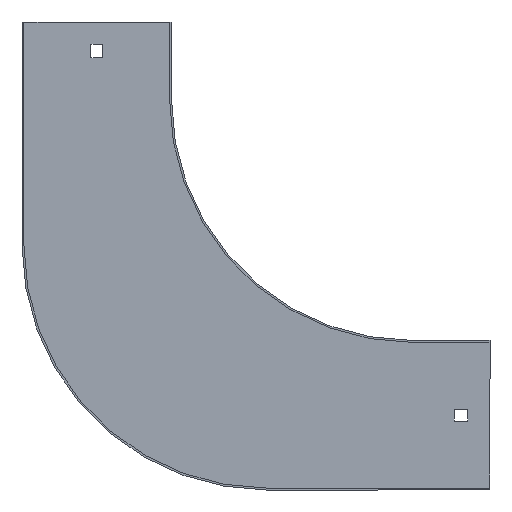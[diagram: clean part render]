
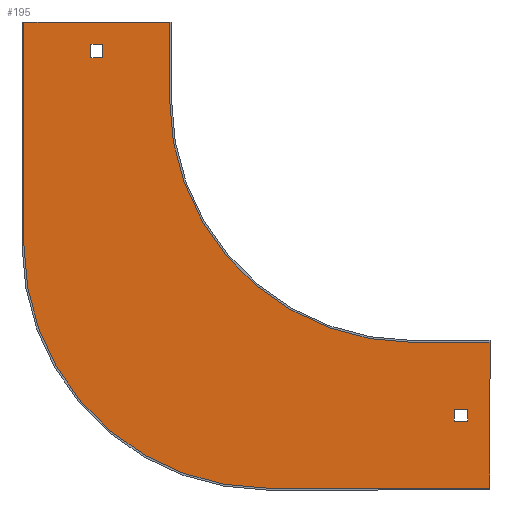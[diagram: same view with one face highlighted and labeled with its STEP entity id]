
A CAD part, front view. The second image highlights one B-rep face of the part: STEP entity #195.
In plain terms, the highlighted planar face has unit normal (0, -1, 0).
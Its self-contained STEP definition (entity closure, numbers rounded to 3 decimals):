
#21 = VECTOR ( 'NONE', #156, 1000. ) ;
#27 = VECTOR ( 'NONE', #313, 1000. ) ;
#29 = EDGE_CURVE ( 'NONE', #651, #288, #544, .T. ) ;
#30 = CARTESIAN_POINT ( 'NONE',  ( 21.5, -1., 0. ) ) ;
#47 = CARTESIAN_POINT ( 'NONE',  ( -75., -1., -200. ) ) ;
#50 = CIRCLE ( 'NONE', #791, 125. ) ;
#51 = DIRECTION ( 'NONE',  ( 0., 0., 1. ) ) ;
#57 = CARTESIAN_POINT ( 'NONE',  ( 0., -1., -159.5 ) ) ;
#88 = LINE ( 'NONE', #601, #162 ) ;
#89 = CARTESIAN_POINT ( 'NONE',  ( 0., -1., 0. ) ) ;
#97 = VERTEX_POINT ( 'NONE', #226 ) ;
#107 = DIRECTION ( 'NONE',  ( 0., 0., 1. ) ) ;
#115 = DIRECTION ( 'NONE',  ( 0., 0., 1. ) ) ;
#118 = ORIENTED_EDGE ( 'NONE', *, *, #525, .F. ) ;
#120 = FACE_BOUND ( 'NONE', #809, .T. ) ;
#126 = CARTESIAN_POINT ( 'NONE',  ( -125., -1., 0. ) ) ;
#135 = ORIENTED_EDGE ( 'NONE', *, *, #500, .F. ) ;
#136 = AXIS2_PLACEMENT_3D ( 'NONE', #89, #291, #470 ) ;
#138 = VECTOR ( 'NONE', #312, 1000. ) ;
#156 = DIRECTION ( 'NONE',  ( 0., 0., -1. ) ) ;
#159 = VERTEX_POINT ( 'NONE', #494 ) ;
#162 = VECTOR ( 'NONE', #281, 1000. ) ;
#187 = VERTEX_POINT ( 'NONE', #781 ) ;
#195 = ADVANCED_FACE ( 'NONE', ( #398, #714, #120 ), #259, .T. ) ;
#210 = VECTOR ( 'NONE', #107, 1000. ) ;
#212 = VERTEX_POINT ( 'NONE', #582 ) ;
#214 = LINE ( 'NONE', #595, #835 ) ;
#215 = CARTESIAN_POINT ( 'NONE',  ( 40., -1., -124. ) ) ;
#222 = CARTESIAN_POINT ( 'NONE',  ( 21.5, -1., -165.5 ) ) ;
#223 = VERTEX_POINT ( 'NONE', #578 ) ;
#225 = CARTESIAN_POINT ( 'NONE',  ( -125., -1., 40. ) ) ;
#226 = CARTESIAN_POINT ( 'NONE',  ( -200., -1., -75. ) ) ;
#252 = CARTESIAN_POINT ( 'NONE',  ( 0., -1., 0. ) ) ;
#254 = ORIENTED_EDGE ( 'NONE', *, *, #812, .T. ) ;
#256 = DIRECTION ( 'NONE',  ( 1., 0., 0. ) ) ;
#259 = PLANE ( 'NONE',  #863 ) ;
#268 = EDGE_CURVE ( 'NONE', #223, #212, #570, .T. ) ;
#274 = ORIENTED_EDGE ( 'NONE', *, *, #723, .F. ) ;
#278 = ORIENTED_EDGE ( 'NONE', *, *, #389, .F. ) ;
#281 = DIRECTION ( 'NONE',  ( 1., 0., 0. ) ) ;
#285 = LINE ( 'NONE', #225, #21 ) ;
#288 = VERTEX_POINT ( 'NONE', #483 ) ;
#290 = DIRECTION ( 'NONE',  ( 0., 0., -1. ) ) ;
#291 = DIRECTION ( 'NONE',  ( 0., -1., 0. ) ) ;
#304 = ORIENTED_EDGE ( 'NONE', *, *, #349, .F. ) ;
#305 = CARTESIAN_POINT ( 'NONE',  ( 40., -1., -200. ) ) ;
#308 = LINE ( 'NONE', #706, #573 ) ;
#312 = DIRECTION ( 'NONE',  ( 1., 0., 0. ) ) ;
#313 = DIRECTION ( 'NONE',  ( -1., 0., 0. ) ) ;
#317 = LINE ( 'NONE', #701, #210 ) ;
#323 = LINE ( 'NONE', #854, #685 ) ;
#332 = VECTOR ( 'NONE', #256, 1000. ) ;
#335 = VECTOR ( 'NONE', #521, 1000. ) ;
#339 = CARTESIAN_POINT ( 'NONE',  ( 0., -1., -125. ) ) ;
#347 = CARTESIAN_POINT ( 'NONE',  ( 40., -1., -200. ) ) ;
#349 = EDGE_CURVE ( 'NONE', #288, #159, #722, .T. ) ;
#356 = ORIENTED_EDGE ( 'NONE', *, *, #29, .F. ) ;
#360 = VERTEX_POINT ( 'NONE', #467 ) ;
#364 = ORIENTED_EDGE ( 'NONE', *, *, #465, .F. ) ;
#376 = EDGE_CURVE ( 'NONE', #360, #624, #214, .T. ) ;
#381 = CARTESIAN_POINT ( 'NONE',  ( 28.5, -1., -165.5 ) ) ;
#389 = EDGE_CURVE ( 'NONE', #187, #542, #647, .T. ) ;
#398 = FACE_BOUND ( 'NONE', #622, .T. ) ;
#410 = CARTESIAN_POINT ( 'NONE',  ( -159.5, -1., 28.5 ) ) ;
#412 = ORIENTED_EDGE ( 'NONE', *, *, #268, .F. ) ;
#431 = CARTESIAN_POINT ( 'NONE',  ( -75., -1., -75. ) ) ;
#432 = VERTEX_POINT ( 'NONE', #410 ) ;
#452 = CARTESIAN_POINT ( 'NONE',  ( -165.5, -1., 0. ) ) ;
#462 = VERTEX_POINT ( 'NONE', #381 ) ;
#465 = EDGE_CURVE ( 'NONE', #694, #474, #507, .T. ) ;
#467 = CARTESIAN_POINT ( 'NONE',  ( -159.5, -1., 21.5 ) ) ;
#470 = DIRECTION ( 'NONE',  ( 0., 0., -1. ) ) ;
#474 = VERTEX_POINT ( 'NONE', #47 ) ;
#480 = DIRECTION ( 'NONE',  ( 0., 1., 0. ) ) ;
#483 = CARTESIAN_POINT ( 'NONE',  ( 0., -1., -125. ) ) ;
#491 = EDGE_CURVE ( 'NONE', #97, #223, #308, .T. ) ;
#492 = ORIENTED_EDGE ( 'NONE', *, *, #566, .T. ) ;
#493 = DIRECTION ( 'NONE',  ( 0., 0., -1. ) ) ;
#494 = CARTESIAN_POINT ( 'NONE',  ( 40., -1., -125. ) ) ;
#500 = EDGE_CURVE ( 'NONE', #462, #187, #317, .T. ) ;
#507 = LINE ( 'NONE', #305, #27 ) ;
#508 = VECTOR ( 'NONE', #756, 1000. ) ;
#518 = DIRECTION ( 'NONE',  ( 0., 0., -1. ) ) ;
#521 = DIRECTION ( 'NONE',  ( -1., 0., 0. ) ) ;
#522 = DIRECTION ( 'NONE',  ( 0., 0., -1. ) ) ;
#525 = EDGE_CURVE ( 'NONE', #823, #462, #785, .T. ) ;
#538 = ORIENTED_EDGE ( 'NONE', *, *, #787, .F. ) ;
#542 = VERTEX_POINT ( 'NONE', #783 ) ;
#543 = ORIENTED_EDGE ( 'NONE', *, *, #491, .F. ) ;
#544 = CIRCLE ( 'NONE', #136, 125. ) ;
#547 = EDGE_CURVE ( 'NONE', #624, #765, #715, .T. ) ;
#551 = CARTESIAN_POINT ( 'NONE',  ( -165.5, -1., 28.5 ) ) ;
#556 = EDGE_LOOP ( 'NONE', ( #412, #543, #538, #364, #681, #304, #356, #712 ) ) ;
#566 = EDGE_CURVE ( 'NONE', #432, #360, #323, .T. ) ;
#568 = CARTESIAN_POINT ( 'NONE',  ( 0., -1., -165.5 ) ) ;
#570 = LINE ( 'NONE', #587, #138 ) ;
#573 = VECTOR ( 'NONE', #51, 1000. ) ;
#578 = CARTESIAN_POINT ( 'NONE',  ( -200., -1., 40. ) ) ;
#582 = CARTESIAN_POINT ( 'NONE',  ( -125., -1., 40. ) ) ;
#587 = CARTESIAN_POINT ( 'NONE',  ( -201., -1., 40. ) ) ;
#595 = CARTESIAN_POINT ( 'NONE',  ( 0., -1., 21.5 ) ) ;
#601 = CARTESIAN_POINT ( 'NONE',  ( 0., -1., 28.5 ) ) ;
#611 = VECTOR ( 'NONE', #290, 1000. ) ;
#615 = LINE ( 'NONE', #30, #508 ) ;
#622 = EDGE_LOOP ( 'NONE', ( #278, #135, #118, #274 ) ) ;
#624 = VERTEX_POINT ( 'NONE', #808 ) ;
#647 = LINE ( 'NONE', #57, #335 ) ;
#651 = VERTEX_POINT ( 'NONE', #126 ) ;
#653 = DIRECTION ( 'NONE',  ( 0., -1., 0. ) ) ;
#658 = DIRECTION ( 'NONE',  ( -1., 0., 0. ) ) ;
#664 = ORIENTED_EDGE ( 'NONE', *, *, #547, .T. ) ;
#681 = ORIENTED_EDGE ( 'NONE', *, *, #762, .F. ) ;
#685 = VECTOR ( 'NONE', #518, 1000. ) ;
#689 = LINE ( 'NONE', #215, #611 ) ;
#694 = VERTEX_POINT ( 'NONE', #347 ) ;
#697 = EDGE_CURVE ( 'NONE', #212, #651, #285, .T. ) ;
#701 = CARTESIAN_POINT ( 'NONE',  ( 28.5, -1., 0. ) ) ;
#706 = CARTESIAN_POINT ( 'NONE',  ( -200., -1., -75. ) ) ;
#712 = ORIENTED_EDGE ( 'NONE', *, *, #697, .F. ) ;
#714 = FACE_OUTER_BOUND ( 'NONE', #556, .T. ) ;
#715 = LINE ( 'NONE', #452, #818 ) ;
#722 = LINE ( 'NONE', #339, #778 ) ;
#723 = EDGE_CURVE ( 'NONE', #542, #823, #615, .T. ) ;
#756 = DIRECTION ( 'NONE',  ( 0., 0., -1. ) ) ;
#762 = EDGE_CURVE ( 'NONE', #159, #694, #689, .T. ) ;
#765 = VERTEX_POINT ( 'NONE', #551 ) ;
#778 = VECTOR ( 'NONE', #806, 1000. ) ;
#781 = CARTESIAN_POINT ( 'NONE',  ( 28.5, -1., -159.5 ) ) ;
#783 = CARTESIAN_POINT ( 'NONE',  ( 21.5, -1., -159.5 ) ) ;
#785 = LINE ( 'NONE', #568, #332 ) ;
#787 = EDGE_CURVE ( 'NONE', #474, #97, #50, .T. ) ;
#791 = AXIS2_PLACEMENT_3D ( 'NONE', #431, #480, #493 ) ;
#806 = DIRECTION ( 'NONE',  ( 1., 0., 0. ) ) ;
#808 = CARTESIAN_POINT ( 'NONE',  ( -165.5, -1., 21.5 ) ) ;
#809 = EDGE_LOOP ( 'NONE', ( #254, #492, #855, #664 ) ) ;
#812 = EDGE_CURVE ( 'NONE', #765, #432, #88, .T. ) ;
#818 = VECTOR ( 'NONE', #115, 1000. ) ;
#823 = VERTEX_POINT ( 'NONE', #222 ) ;
#835 = VECTOR ( 'NONE', #658, 1000. ) ;
#854 = CARTESIAN_POINT ( 'NONE',  ( -159.5, -1., 0. ) ) ;
#855 = ORIENTED_EDGE ( 'NONE', *, *, #376, .T. ) ;
#863 = AXIS2_PLACEMENT_3D ( 'NONE', #252, #653, #522 ) ;
